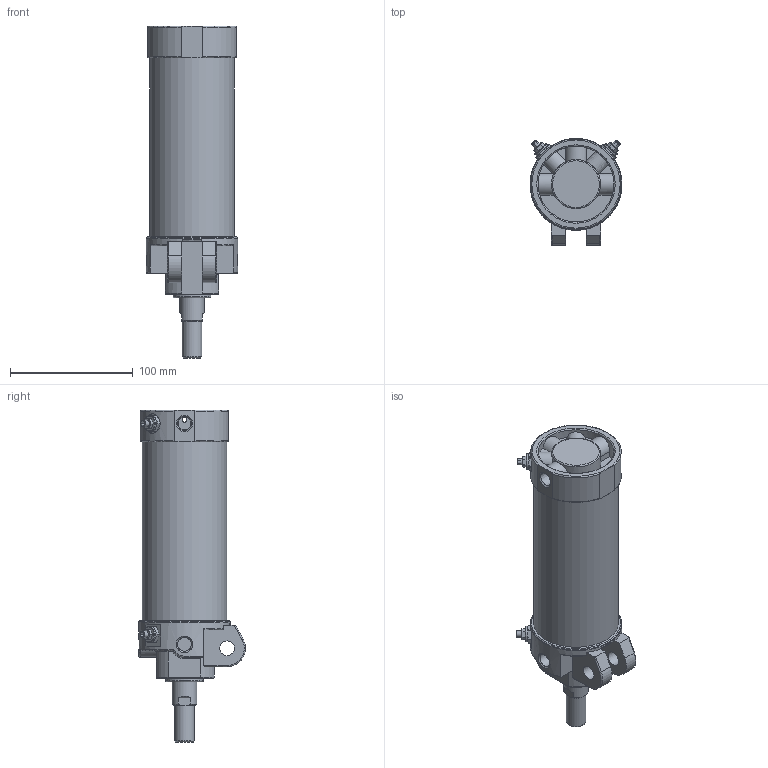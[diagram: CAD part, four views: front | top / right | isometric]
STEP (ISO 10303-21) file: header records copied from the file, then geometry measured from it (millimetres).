
FILE_DESCRIPTION((''),'2;1');
FILE_NAME('I:\3D電子目錄\氣缸\DCK\DCK\DCK-1A-63x100.stp','2008-02-26T15:14:42',('Administrator'),(''),'Autodesk Inventor 11','Autodesk Inventor 11','');
FILE_SCHEMA(('AUTOMOTIVE_DESIGN { 1 0 10303 214 1 1 1 1 }'));
Length unit declared in the file: millimetre
Products named in the file (6): DCK-1A-63; 緩衝針; 緩衝針-1; 緩衝針-201; 緩衝針-3
Assembly tree (8 placements, depth 3):
  DCK-1A-63
    DCK-1A-63
    緩衝針  x4
      緩衝針-1
      緩衝針-201
      緩衝針-3
Bounding box: 75 x 87.29 x 271 mm (x, y, z)
Volume: 343011.5 mm3; surface area: 136152.4 mm2
Topology: 16 solids, 16 shells, 590 faces, 1297 edges, 807 vertices
Faces by surface type: plane 219, cylinder 167, cone 131, torus 42, bspline 31
Full cylindrical faces by diameter (mm): 2 x1, 3 x2, 3.8 x2, 4 x6, 4.6 x4, 5 x8, 5.1 x4, 5.2 x12, 5.5 x4, 7 x1, 7.25 x1, 7.9 x4, 8 x2, 11.3 x3, 12 x2, 12.8 x4, 16 x2, 20 x1, 21 x1, 22 x2, 23 x1, 24.7 x1, 26 x1, 27 x1, 28 x1, 29 x1, 31 x1, 33 x1, 62 x1, 62.7 x1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
Entity records: 12413 total; most frequent: CARTESIAN_POINT 5248, DIRECTION 1447, ORIENTED_EDGE 1314, EDGE_CURVE 657, AXIS2_PLACEMENT_3D 630, EDGE_LOOP 509, VERTEX_POINT 472, FACE_OUTER_BOUND 341
